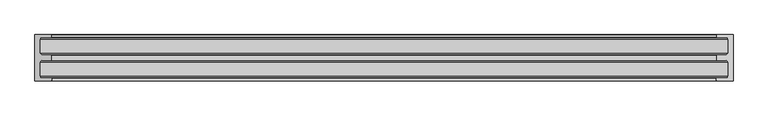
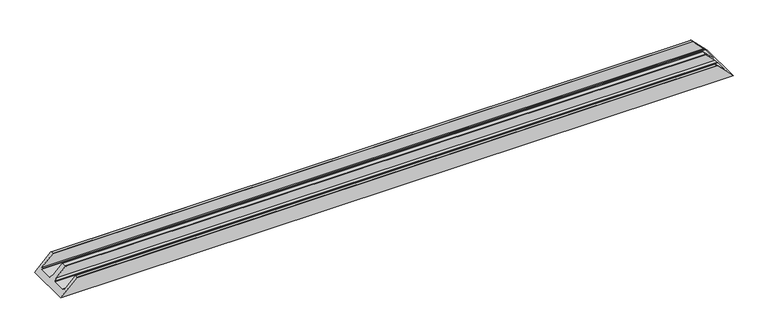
"""IFC4 building model written with IfcOpenShell, lengths in millimetres: proxy geometry, Weiku - Montante - Caixilho duplo 02.3.02.409 : Weiku - Montante - Caixilho duplo 02.3.02.409."""

from ifc_helpers import new_model, si_unit, frame, origin, place, context, project, spatial, ellipse_curve, source, transform, mapped, element, save
from ifc_brep_helpers import plane_surface, cylinder_surface, advanced_brep


def generic_models_79bc2618(model_context):
    return source(origin(), model_context, "Body", "AdvancedBrep", [
        advanced_brep(
        [(-1158.0, -9.8, 18.2), (1158.0, -9.8, 18.2), (1120.3, -9.8, 55.9), (-1120.3, -9.8, 55.9), (-1160.5000079, -63.85, 15.6999921), (1160.5000079, -63.85, 15.6999921), (1160.5000079, -15.05, 15.6999921), (-1160.5000079, -15.05, 15.6999921), (-1120.3000055, -69.1, 55.8999945), (1120.3000055, -69.1, 55.8999945), (1152.3700642, -69.1, 23.8299358), (-1152.3700642, -69.1, 23.8299358), (-1119.8000055, -86.65, 56.3999945), (1119.8000055, -86.65, 56.3999945), (1119.8000055, -69.6, 56.3999945), (-1119.8000055, -69.6, 56.3999945), (-1152.4236827, -87.15, 23.7763173), (1152.4236827, -87.15, 23.7763173), (1120.3000055, -87.15, 55.8999945), (-1120.3000055, -87.15, 55.8999945), (-1176.2, -156.2000166, 0.0), (-1176.2, 0.0, 0.0), (1176.2, 0.0, 0.0), (1176.2, -156.2000166, 0.0), (-1120.3, 0.0, 55.9), (1120.3, 0.0, 55.9), (-1119.8, -9.3, 56.4), (1119.8, -9.3, 56.4), (1119.8, -0.5, 56.4), (-1119.8, -0.5, 56.4), (-1120.3, -156.2000166, 55.9), (-1119.8, -155.7000166, 56.4), (-1119.8, -146.9000166, 56.4), (-1120.3, -146.4000166, 55.9), (-1158.0, -146.4000166, 18.2), (-1158.0, -141.1500166, 18.2), (-1160.5000079, -141.1500166, 15.6999921), (-1160.5000079, -92.3500166, 15.6999921), (-1158.0000178, -92.3500166, 18.1999822), (-1158.0, -63.85, 18.2), (-1158.0, -15.05, 18.2), (1158.0, -15.05, 18.2), (1158.0, -63.85, 18.2), (1158.0000178, -92.3500166, 18.1999822), (1160.5000079, -92.3500166, 15.6999921), (1160.5000079, -141.1500166, 15.6999921), (1158.0, -141.1500166, 18.2), (1158.0, -146.4000166, 18.2), (1120.3, -146.4000166, 55.9), (1119.8, -146.9000166, 56.4), (1119.8, -155.7000166, 56.4), (1120.3, -156.2000166, 55.9)],
        [
            (0, 1),
            (1, 2),
            (2, 3),
            (3, 0),
            (4, 5),
            (5, 6),
            (6, 7),
            (7, 4),
            (8, 9),
            (9, 10),
            (10, 11),
            (11, 8),
            (12, 13),
            (13, 14),
            (14, 15),
            (15, 12),
            (16, 17),
            (17, 18),
            (18, 19),
            (19, 16),
            (20, 21),
            (21, 22),
            (22, 23),
            (23, 20),
            (21, 24),
            (24, 25),
            (25, 22),
            (26, 27),
            (27, 28),
            (28, 29),
            (29, 26),
            (3, 26, ellipse_curve(frame((-1120.3, -9.3, 55.9), z_axis=(-0.7071067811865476, 0.0, 0.7071067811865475), x_axis=(-0.7071067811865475, 0.0, -0.7071067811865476)), 0.7071068, 0.5)),
            (29, 24, ellipse_curve(frame((-1120.3, -0.5, 55.9), z_axis=(-0.7071067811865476, 0.0, 0.7071067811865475), x_axis=(-0.7071067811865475, 0.0, -0.7071067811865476)), 0.7071068, 0.5)),
            (20, 30),
            (30, 31, ellipse_curve(frame((-1120.3, -155.7000166, 55.9), z_axis=(-0.7071067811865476, 0.0, 0.7071067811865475), x_axis=(-0.7071067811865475, 0.0, -0.7071067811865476)), 0.7071068, 0.5)),
            (31, 32),
            (32, 33, ellipse_curve(frame((-1120.3, -146.9000166, 55.9), z_axis=(-0.7071067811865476, 0.0, 0.7071067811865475), x_axis=(-0.7071067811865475, 0.0, -0.7071067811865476)), 0.7071068, 0.5)),
            (33, 34),
            (34, 35),
            (35, 36),
            (36, 37),
            (37, 38),
            (38, 16),
            (19, 12, ellipse_curve(frame((-1120.3000055, -86.65, 55.8999945), z_axis=(-0.7071067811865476, 0.0, 0.7071067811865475), x_axis=(-0.7071067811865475, 0.0, -0.7071067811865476)), 0.7071068, 0.5)),
            (15, 8, ellipse_curve(frame((-1120.3000055, -69.6, 55.8999945), z_axis=(-0.7071067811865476, 0.0, 0.7071067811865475), x_axis=(-0.7071067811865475, 0.0, -0.7071067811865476)), 0.7071068, 0.5)),
            (11, 39),
            (39, 4),
            (7, 40),
            (40, 0),
            (1, 41),
            (41, 6),
            (5, 42),
            (42, 10),
            (9, 14, ellipse_curve(frame((1120.3000055, -69.6, 55.8999945), z_axis=(0.7071067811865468, 0.0, 0.7071067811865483), x_axis=(-0.7071067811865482, 0.0, 0.7071067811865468)), 0.7071068, 0.5)),
            (13, 18, ellipse_curve(frame((1120.3000055, -86.65, 55.8999945), z_axis=(0.7071067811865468, 0.0, 0.7071067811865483), x_axis=(-0.7071067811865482, 0.0, 0.7071067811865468)), 0.7071068, 0.5)),
            (17, 43),
            (43, 44),
            (44, 45),
            (45, 46),
            (46, 47),
            (47, 48),
            (48, 49, ellipse_curve(frame((1120.3, -146.9000166, 55.9), z_axis=(0.7071067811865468, 0.0, 0.7071067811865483), x_axis=(-0.7071067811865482, 0.0, 0.7071067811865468)), 0.7071068, 0.5)),
            (49, 50),
            (50, 51, ellipse_curve(frame((1120.3, -155.7000166, 55.9), z_axis=(0.7071067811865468, 0.0, 0.7071067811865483), x_axis=(-0.7071067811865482, 0.0, 0.7071067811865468)), 0.7071068, 0.5)),
            (51, 23),
            (25, 28, ellipse_curve(frame((1120.3, -0.5, 55.9), z_axis=(0.7071067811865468, 0.0, 0.7071067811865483), x_axis=(-0.7071067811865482, 0.0, 0.7071067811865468)), 0.7071068, 0.5)),
            (27, 2, ellipse_curve(frame((1120.3, -9.3, 55.9), z_axis=(0.7071067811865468, 0.0, 0.7071067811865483), x_axis=(-0.7071067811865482, 0.0, 0.7071067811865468)), 0.7071068, 0.5)),
            (40, 41),
            (39, 42),
            (38, 43),
            (37, 44),
            (36, 45),
            (35, 46),
            (34, 47),
            (33, 48),
            (31, 50),
            (49, 32),
            (30, 51),
        ],
        [
            plane_surface(frame((-1176.2, -9.8, 55.9), z_axis=(0.0, -1.0, 0.0), x_axis=(1.0, 0.0, 0.0))),
            plane_surface(frame((-1176.2, -15.05, 15.6999921), z_axis=(0.0, 0.0, 1.0), x_axis=(1.0, 0.0, 0.0))),
            plane_surface(frame((-1176.2, -69.1, 23.8299358), z_axis=(0.0, 1.0, 0.0), x_axis=(1.0, 0.0, 0.0))),
            plane_surface(frame((-1176.2, -69.6, 56.3999945), z_axis=(0.0, 0.0, 1.0), x_axis=(1.0, 0.0, 0.0))),
            plane_surface(frame((-1176.2, -87.15, 55.8999945), z_axis=(0.0, -1.0, 0.0), x_axis=(1.0, 0.0, 0.0))),
            plane_surface(frame((-1176.2, -156.2000166, 0.0), z_axis=(0.0, 0.0, -1.0), x_axis=(1.0, 0.0, 0.0))),
            plane_surface(frame((-1176.2, 0.0, 0.0), z_axis=(0.0, 1.0, 0.0), x_axis=(1.0, 0.0, 0.0))),
            plane_surface(frame((-1176.2, -0.5, 56.4), z_axis=(0.0, 0.0, 1.0), x_axis=(1.0, 0.0, 0.0))),
            plane_surface(frame((-1176.2, 0.0, 0.0), z_axis=(-0.7071067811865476, 0.0, 0.7071067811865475), x_axis=(0.0, -1.0, 0.0))),
            plane_surface(frame((1116.2, 0.0, 60.0), z_axis=(0.7071067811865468, 0.0, 0.7071067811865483), x_axis=(0.0, -1.0, 0.0))),
            plane_surface(frame((-1176.2, -9.8, 18.2), z_axis=(0.0, 0.0, 1.0), x_axis=(1.0, 0.0, 0.0))),
            plane_surface(frame((-1176.2, -15.05, 18.2), z_axis=(0.0, -1.0, 0.0), x_axis=(1.0, 0.0, 0.0))),
            plane_surface(frame((-1176.2, -63.85, 15.6999921), z_axis=(0.0, 1.0, 0.0), x_axis=(1.0, 0.0, 0.0))),
            plane_surface(frame((-1176.2, -63.85, 18.2), z_axis=(0.0, 0.7313537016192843, 0.6819983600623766), x_axis=(1.0, 0.0, 0.0))),
            cylinder_surface(frame((-1176.2, -86.65, 55.8999945), z_axis=(-1.0, 0.0, 0.0), x_axis=(0.0, -1.0, 0.0)), 0.5),
            cylinder_surface(frame((-1176.2, -0.5, 55.9), z_axis=(-1.0, 0.0, 0.0), x_axis=(0.0, -1.0, 0.0)), 0.5),
            plane_surface(frame((-1176.2, -87.15, 23.7763173), z_axis=(0.0, -0.7313537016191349, 0.6819983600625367), x_axis=(1.0, 0.0, 0.0))),
            plane_surface(frame((-1176.2, -92.3500166, 18.1999822), z_axis=(0.0, -1.0, 0.0), x_axis=(1.0, 0.0, 0.0))),
            plane_surface(frame((-1176.2, -92.3500166, 15.6999921), z_axis=(0.0, 0.0, 1.0), x_axis=(1.0, 0.0, 0.0))),
            plane_surface(frame((-1176.2, -141.1500166, 15.6999921), z_axis=(0.0, 1.0, 0.0), x_axis=(1.0, 0.0, 0.0))),
            plane_surface(frame((-1176.2, -141.1500166, 18.2), z_axis=(0.0, 0.0, 1.0), x_axis=(1.0, 0.0, 0.0))),
            plane_surface(frame((-1176.2, -146.4000166, 18.2), z_axis=(0.0, 1.0, 0.0), x_axis=(1.0, 0.0, 0.0))),
            plane_surface(frame((-1176.2, -146.9000166, 56.4), z_axis=(0.0, 0.0, 1.0), x_axis=(1.0, 0.0, 0.0))),
            cylinder_surface(frame((-1176.2, -155.7000166, 55.9), z_axis=(-1.0, 0.0, 0.0), x_axis=(0.0, 1.0, 0.0)), 0.5),
            plane_surface(frame((-1176.2, -156.2000166, 55.9), z_axis=(0.0, -1.0, 0.0), x_axis=(1.0, 0.0, 0.0))),
            cylinder_surface(frame((-1176.2, -9.3, 55.9), z_axis=(-1.0, 0.0, 0.0), x_axis=(0.0, -1.0, 0.0)), 0.5),
            cylinder_surface(frame((-1176.2, -69.6, 55.8999945), z_axis=(-1.0, 0.0, 0.0), x_axis=(0.0, -1.0, 0.0)), 0.5),
            cylinder_surface(frame((-1176.2, -146.9000166, 55.9), z_axis=(-1.0, 0.0, 0.0), x_axis=(0.0, -1.0, 0.0)), 0.5),
        ],
        [
            (0, [[1, 2, 3, 4]]),
            (1, [[5, 6, 7, 8]]),
            (2, [[9, 10, 11, 12]]),
            (3, [[13, 14, 15, 16]]),
            (4, [[17, 18, 19, 20]]),
            (5, [[21, 22, 23, 24]]),
            (6, [[25, 26, 27, -22]]),
            (7, [[28, 29, 30, 31]]),
            (8, [[32, -31, 33, -25, -21, 34, 35, 36, 37, 38, 39, 40, 41, 42, 43, -20, 44, -16, 45, -12, 46, 47, -8, 48, 49, -4]]),
            (9, [[50, 51, -6, 52, 53, -10, 54, -14, 55, -18, 56, 57, 58, 59, 60, 61, 62, 63, 64, 65, -23, -27, 66, -29, 67, -2]]),
            (10, [[68, -50, -1, -49]]),
            (11, [[-7, -51, -68, -48]]),
            (12, [[69, -52, -5, -47]]),
            (13, [[-11, -53, -69, -46]]),
            (14, [[-19, -55, -13, -44]]),
            (15, [[-30, -66, -26, -33]]),
            (16, [[70, -56, -17, -43]]),
            (17, [[71, -57, -70, -42]]),
            (18, [[72, -58, -71, -41]]),
            (19, [[73, -59, -72, -40]]),
            (20, [[74, -60, -73, -39]]),
            (21, [[75, -61, -74, -38]]),
            (22, [[76, -63, 77, -36]]),
            (23, [[78, -64, -76, -35]]),
            (24, [[-65, -78, -34, -24]]),
            (25, [[-3, -67, -28, -32]]),
            (26, [[-15, -54, -9, -45]]),
            (27, [[-77, -62, -75, -37]]),
        ],
    ),
    ])


if __name__ == "__main__":
    model = new_model("IFC4")
    model_context = context("Model", 3, world=origin())
    ifc_project = project(units=[si_unit("LENGTHUNIT", "METRE", prefix="MILLI")], contexts=[model_context])
    site = spatial("IfcSite", under=ifc_project)
    building = spatial("IfcBuilding", under=site)
    placement = place(None, origin())
    generic_models_shape = generic_models_79bc2618(model_context)
    element("IfcBuildingElementProxy", 1, Name="Weiku - Montante - Caixilho duplo 02.3.02.409 : Weiku - Montante - Caixilho duplo 02.3.02.409", ObjectType="Weiku - Montante - Caixilho duplo 02.3.02.409 : Weiku - Montante - Caixilho duplo 02.3.02.409", at=placement, inside=building, context=model_context, shape_type="MappedRepresentation", body=[
        mapped(generic_models_shape, transform((0.0, 0.0, 0.0), x_axis=(1.0, 0.0, 0.0), y_axis=(0.0, 1.0, 0.0), z_axis=(0.0, 0.0, 1.0))),
    ])
    save(model, "model.ifc")
